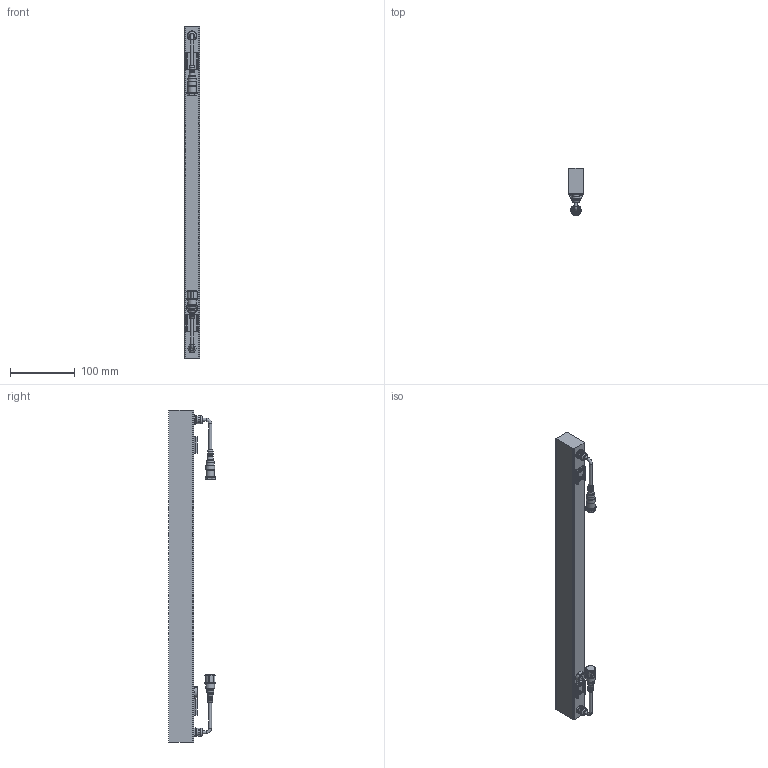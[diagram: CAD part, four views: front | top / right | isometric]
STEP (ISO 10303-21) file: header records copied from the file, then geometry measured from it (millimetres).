
FILE_DESCRIPTION(/* description */ ('Unknown'),/* implementation_level */ '2;1');
FILE_NAME(/* name */ 'PASEO L 20.2',/* time_stamp */ '2023-01-24T04:21:45-05:00',/* author */ ('Unknown'),/* organization */ ('Unknown'),/* preprocessor_version */ 'ST-DEVELOPER v18.1',/* originating_system */ 'Solid Edge',/* authorisation */ 'Unknown');
FILE_SCHEMA (('AUTOMOTIVE_DESIGN {1 0 10303 214 3 1 1}'));
Length unit declared in the file: millimetre
Products named in the file (1): PASEO L 20.2
Bounding box: 24 x 72.29 x 511.7 mm (x, y, z)
Volume: 494059.7 mm3; surface area: 74396.9 mm2
Topology: 1 solids, 1 shells, 404 faces, 1039 edges, 654 vertices
Faces by surface type: plane 201, cylinder 122, cone 47, torus 34
Full cylindrical faces by diameter (mm): 4.262 x2, 4.591 x2, 5.7 x4, 7.264 x2, 8.085 x2, 8.465 x1, 8.637 x1, 8.665 x3, 8.821 x3, 9.065 x1, 9.311 x1, 10 x2, 11.534 x1, 12 x4, 12.682 x2, 13.469 x1, 13.602 x1, 14.5 x1, 15 x2, 16 x1, 17 x1
Entity records: 11994 total; most frequent: CARTESIAN_POINT 2395, DIRECTION 2074, ORIENTED_EDGE 1900, EDGE_CURVE 950, AXIS2_PLACEMENT_3D 843, VERTEX_POINT 640, EDGE_LOOP 506, FACE_BOUND 506
